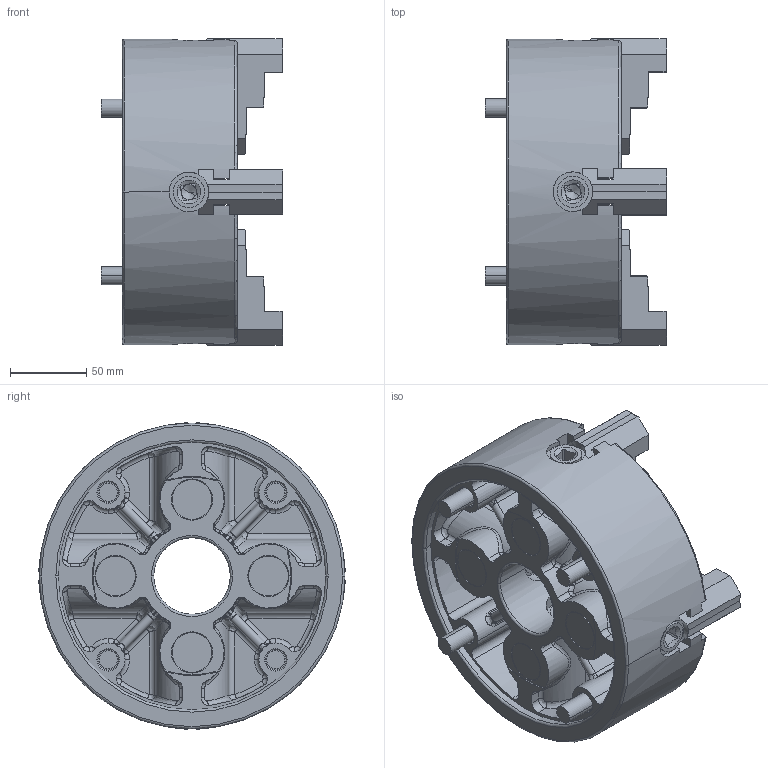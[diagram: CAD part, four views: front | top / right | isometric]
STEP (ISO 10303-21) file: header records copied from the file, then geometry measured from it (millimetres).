
FILE_DESCRIPTION (( 'STEP AP214' ), '1' );
FILE_NAME ('IC-08_僈僀働僀r.STEP', '2025-02-25T04:33:52', ( '' ), ( '' ), 'SwSTEP 2.0', 'SolidWorks 2022', '' );
FILE_SCHEMA (( 'AUTOMOTIVE_DESIGN' ));
Length unit declared in the file: millimetre
Products named in the file (1): IC-08_ガイケイr
Bounding box: 119 x 200.36 x 200.36 mm (x, y, z)
Volume: 1758471.1 mm3; surface area: 238587.1 mm2
Topology: 1 solids, 1 shells, 1263 faces, 3418 edges, 2110 vertices
Faces by surface type: cylinder 478, plane 347, bspline 196, cone 144, torus 90, sphere 8
Entity records: 53450 total; most frequent: CARTESIAN_POINT 23792, ORIENTED_EDGE 6788, DIRECTION 5710, EDGE_CURVE 3394, AXIS2_PLACEMENT_3D 2204, VERTEX_POINT 2110, EDGE_LOOP 1306, LINE 1302
